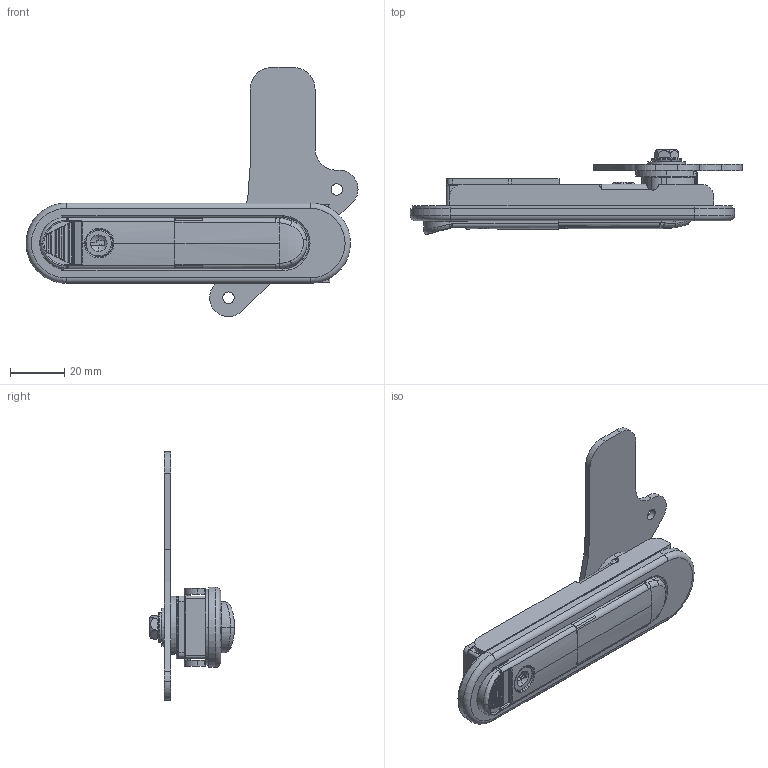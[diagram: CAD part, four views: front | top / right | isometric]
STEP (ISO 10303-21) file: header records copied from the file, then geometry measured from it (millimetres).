
FILE_DESCRIPTION (( 'STEP AP214' ), '1' );
FILE_NAME ('CUYUE.AB302.STEP', '2026-07-14T06:08:38', ( '' ), ( '' ), 'SwSTEP 2.0', 'SolidWorks 2020', '' );
FILE_SCHEMA (( 'AUTOMOTIVE_DESIGN' ));
Length unit declared in the file: millimetre
Products named in the file (1): CUYUE.AB302
Bounding box: 122.77 x 31.38 x 92.13 mm (x, y, z)
Surface area: 31234.5 mm2 (no closed solid volume)
Topology: 0 solids, 7 shells, 1209 faces, 3272 edges, 2062 vertices
Faces by surface type: plane 441, cylinder 426, bspline 149, torus 119, sphere 41, cone 33
Entity records: 49959 total; most frequent: CARTESIAN_POINT 21060, ORIENTED_EDGE 6506, DIRECTION 5563, EDGE_CURVE 3259, VERTEX_POINT 2060, AXIS2_PLACEMENT_3D 2026, VECTOR 1511, LINE 1511
